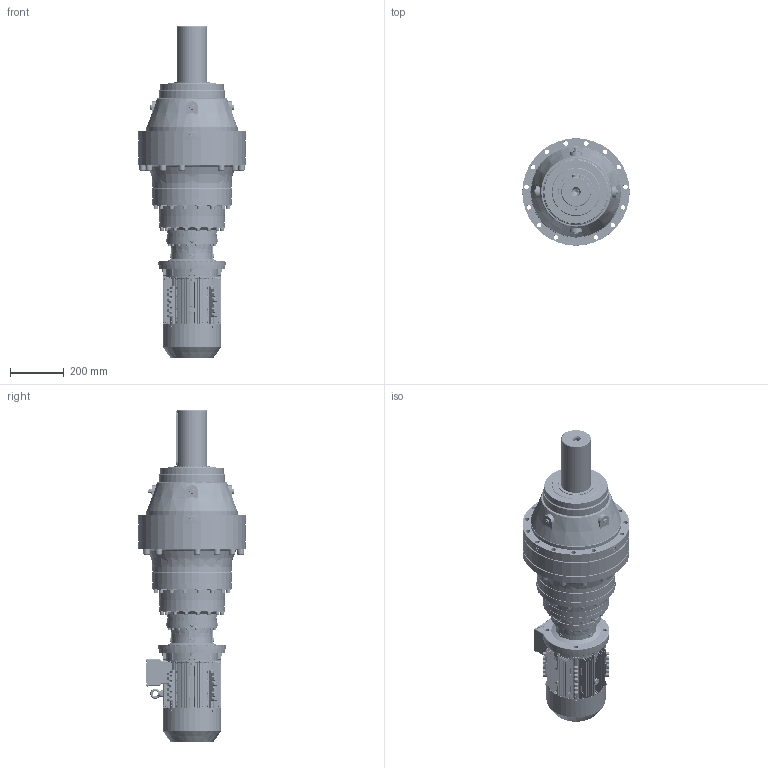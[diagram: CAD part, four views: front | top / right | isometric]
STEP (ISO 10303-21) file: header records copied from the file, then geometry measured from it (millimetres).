
FILE_DESCRIPTION (( 'STEP AP203' ), '1' );
FILE_NAME ('PVL_2704L-112M-4.STEP', '2019-05-10T07:36:44', ( '' ), ( '' ), 'SwSTEP 2.0', 'SolidWorks 2012', '' );
FILE_SCHEMA (( 'CONFIG_CONTROL_DESIGN' ));
Products named in the file (30): PVL_2704L-112M-4; MX3-112_B5; DMX-IE3 112  cable glands_1; DMX-IE3 112B5 flage; rivets for name plate gb_GB_OTHERRIVETS_TYPE93 2.5X5; DMX-IE3 112terminal box cover_1; eyebolts gb_GB_FASTENER_SCREWS_FRS M8-N_1; cross recessed pan head screws gb_GB_CROSS_SCREWS_TYPE1 M5X12-12  H type-N_1; hexagon flange head tapping screws gb_GB_SQUARE_AND_HEXAGON_TYPE137 ST4.8X9.5 C-N_1; DMX-IE3 112   fan cover_1; DMX-IE3 112terminal box base_1; plain parallel keys_GB_CONNECTING_PIECE_KEYS_CSK 8X50_1; spring lock washers--normal type gb_GB_FASTENER_WASHER_SW 8_1; circlips for shaft--type a large gb_GB_CONNECTING_PIECE_RING_RRA 28_1; hexagon socket head cap screws gb_GB_FASTENER_SCREWS_HSHCS M8X40-N_1; hexagon nuts grade c gb_GB_FASTENER_NUT_SNC1 M8-N_1; DMX-IE3 112 fan_1; DMX-IE3 oil seal_1; DMX-IE3 112M4  oil seal_1; deep groove ball bearings gb_Rolling bearings 6206 GB 276-94_1; DMX-IE3 112 shaft_1; DMX-IE3 112M4 casing_1; DMX-IE3 112 shield_1; deep groove ball bearings gb_Rolling bearings 6306 GB 276-94_1; EK2704L_Varsayìlan; PNL_2704L_0_0_A11_B5_ML43A_FL12A_0_0_0_0_0_0_0_0_0_0_0_M1; FL12A_Varsayìlan; ML43A_Varsayìlan; P27_Varsayìlan; 11112B5_Varsayìlan
Assembly tree (59 placements, depth 3):
  PVL_2704L-112M-4
    PNL_2704L_0_0_A11_B5_ML43A_FL12A_0_0_0_0_0_0_0_0_0_0_0_M1
      P27_Varsayìlan
      11112B5_Varsayìlan
      ML43A_Varsayìlan
      EK2704L_Varsayìlan
      FL12A_Varsayìlan
    MX3-112_B5
      DMX-IE3 112M4 casing_1
      DMX-IE3 112 shaft_1
      DMX-IE3 112 shield_1
      deep groove ball bearings gb_Rolling bearings 6306 GB 276-94_1
      deep groove ball bearings gb_Rolling bearings 6206 GB 276-94_1
      DMX-IE3 112M4  oil seal_1
      DMX-IE3 oil seal_1
      DMX-IE3 112 fan_1
      circlips for shaft--type a large gb_GB_CONNECTING_PIECE_RING_RRA 28_1
      spring lock washers--normal type gb_GB_FASTENER_WASHER_SW 8_1  x8
      hexagon nuts grade c gb_GB_FASTENER_NUT_SNC1 M8-N_1  x8
      hexagon socket head cap screws gb_GB_FASTENER_SCREWS_HSHCS M8X40-N_1  x8
      DMX-IE3 112   fan cover_1
      plain parallel keys_GB_CONNECTING_PIECE_KEYS_CSK 8X50_1
      DMX-IE3 112terminal box base_1
      DMX-IE3 112terminal box cover_1
      cross recessed pan head screws gb_GB_CROSS_SCREWS_TYPE1 M5X12-12  H type-N_1  x4
      eyebolts gb_GB_FASTENER_SCREWS_FRS M8-N_1
      hexagon flange head tapping screws gb_GB_SQUARE_AND_HEXAGON_TYPE137 ST4.8X9.5 C-N_1  x5
      DMX-IE3 112  cable glands_1  x2
      DMX-IE3 112B5 flage
      rivets for name plate gb_GB_OTHERRIVETS_TYPE93 2.5X5  x2
Bounding box: 400 x 400 x 1237.85 mm (x, y, z)
Volume: 48882643.9 mm3; surface area: 3124869.8 mm2
Topology: 65 solids, 71 shells, 9444 faces, 24638 edges, 15222 vertices
Faces by surface type: plane 3637, cylinder 2740, bspline 1869, cone 804, torus 264, sphere 130
Entity records: 336172 total; most frequent: CARTESIAN_POINT 126709, ORIENTED_EDGE 45582, DIRECTION 40336, EDGE_CURVE 22794, AXIS2_PLACEMENT_3D 15138, VERTEX_POINT 14255, LINE 10060, VECTOR 10060
